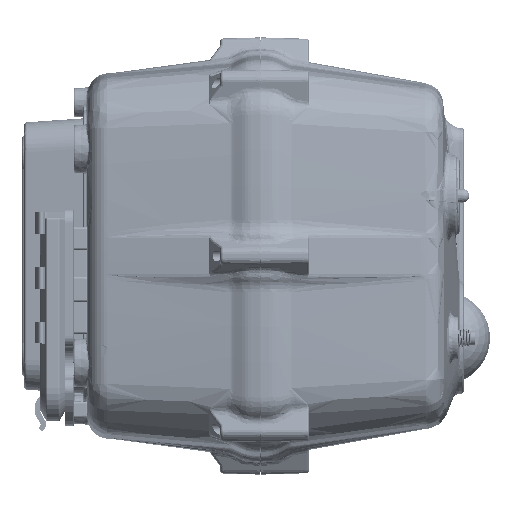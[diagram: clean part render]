
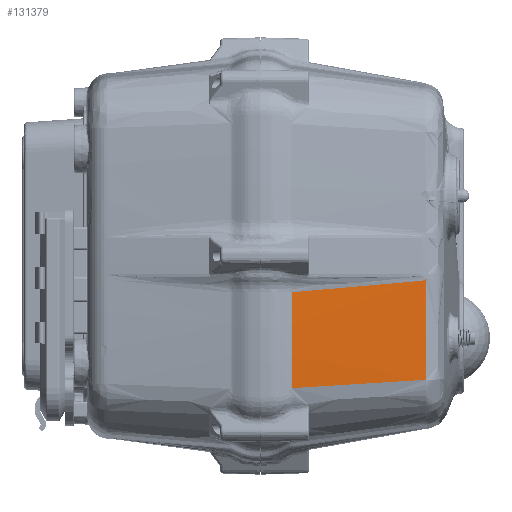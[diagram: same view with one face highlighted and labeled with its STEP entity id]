
A CAD part, left-side view. The second image highlights one B-rep face of the part: STEP entity #131379.
In plain terms, the highlighted conical face has half-angle 8 degrees and reference radius 743.562 mm.
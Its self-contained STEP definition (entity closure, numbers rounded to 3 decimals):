
#8016 = B_SPLINE_CURVE_WITH_KNOTS ( 'NONE', 3,
 ( #44613, #172469, #198170, #223903 ),
 .UNSPECIFIED., .F., .F.,
 ( 4, 4 ),
 ( 0., 0. ),
 .UNSPECIFIED. ) ;
#14527 = EDGE_CURVE ( 'NONE', #179311, #65300, #149429, .T. ) ;
#15612 = CARTESIAN_POINT ( 'NONE',  ( 94.949, 56.858, -9.387 ) ) ;
#15916 = CARTESIAN_POINT ( 'NONE',  ( -640.562, 0., 0. ) ) ;
#18270 = EDGE_CURVE ( 'NONE', #125146, #112965, #8016, .T. ) ;
#26849 = CARTESIAN_POINT ( 'NONE',  ( 99.819, 11.489, -48.177 ) ) ;
#39712 = CARTESIAN_POINT ( 'NONE',  ( 94.493, 60.184, -8.429 ) ) ;
#41291 = CARTESIAN_POINT ( 'NONE',  ( 95.357, 53.919, -9.815 ) ) ;
#41595 = DIRECTION ( 'NONE',  ( 0., 0., -1. ) ) ;
#44613 = CARTESIAN_POINT ( 'NONE',  ( 101.264, 11.513, -13.209 ) ) ;
#50865 = ORIENTED_EDGE ( 'NONE', *, *, #14527, .T. ) ;
#55846 = EDGE_LOOP ( 'NONE', ( #86271, #311121, #84028, #201624, #50865, #274755 ) ) ;
#58274 = CARTESIAN_POINT ( 'NONE',  ( 93.158, 60.172, -45.114 ) ) ;
#59373 = CARTESIAN_POINT ( 'NONE',  ( 93.25, 60.176, -43.587 ) ) ;
#65300 = VERTEX_POINT ( 'NONE', #39712 ) ;
#65989 = CARTESIAN_POINT ( 'NONE',  ( 94.814, 57.836, -9.229 ) ) ;
#67088 = CARTESIAN_POINT ( 'NONE',  ( 96.039, 49.009, -10.418 ) ) ;
#71793 = EDGE_CURVE ( 'NONE', #181487, #179311, #181741, .T. ) ;
#78427 = CARTESIAN_POINT ( 'NONE',  ( 97.178, 30.801, -46.961 ) ) ;
#79507 = AXIS2_PLACEMENT_3D ( 'NONE', #124518, #303755, #150272 ) ;
#84028 = ORIENTED_EDGE ( 'NONE', *, *, #157206, .T. ) ;
#85185 = CARTESIAN_POINT ( 'NONE',  ( 93.469, 60.178, -39.769 ) ) ;
#86271 = ORIENTED_EDGE ( 'NONE', *, *, #194937, .T. ) ;
#90641 = CARTESIAN_POINT ( 'NONE',  ( 94.679, 58.812, -9.051 ) ) ;
#92861 = CARTESIAN_POINT ( 'NONE',  ( 97.409, 39.161, -11.373 ) ) ;
#95886 = AXIS2_PLACEMENT_3D ( 'NONE', #15916, #271384, #41595 ) ;
#96182 = CONICAL_SURFACE ( 'NONE', #95886, 743.562, 0.14 ) ;
#99012 = B_SPLINE_CURVE_WITH_KNOTS ( 'NONE', 3,
 ( #90641, #65989, #15612, #194903, #41291, #220603, #67088, #246419, #92861, #272189, #118726, #297990, #144505, #323685 ),
 .UNSPECIFIED., .F., .F.,
 ( 4, 2, 2, 2, 2, 2, 4 ),
 ( 0., 0.003, 0.006, 0.012, 0.024, 0.036, 0.048 ),
 .UNSPECIFIED. ) ;
#104226 = CARTESIAN_POINT ( 'NONE',  ( 94.957, 47.028, -45.94 ) ) ;
#111000 = CARTESIAN_POINT ( 'NONE',  ( 93.812, 60.182, -32.894 ) ) ;
#112965 = VERTEX_POINT ( 'NONE', #195338 ) ;
#114209 = CARTESIAN_POINT ( 'NONE',  ( 94.548, 59.768, -8.724 ) ) ;
#118726 = CARTESIAN_POINT ( 'NONE',  ( 99.059, 27.318, -12.263 ) ) ;
#124518 = CARTESIAN_POINT ( 'NONE',  ( -640.562, 11.489, 0. ) ) ;
#125146 = VERTEX_POINT ( 'NONE', #189983 ) ;
#130006 = CARTESIAN_POINT ( 'NONE',  ( 93.158, 60.172, -45.114 ) ) ;
#131379 = ADVANCED_FACE ( 'NONE', ( #172433 ), #96182, .T. ) ;
#136766 = CARTESIAN_POINT ( 'NONE',  ( 94.276, 60.186, -20.664 ) ) ;
#137527 = CARTESIAN_POINT ( 'NONE',  ( 94.679, 58.812, -9.051 ) ) ;
#139984 = CARTESIAN_POINT ( 'NONE',  ( 94.644, 59.062, -9.005 ) ) ;
#144505 = CARTESIAN_POINT ( 'NONE',  ( 100.713, 15.466, -12.995 ) ) ;
#149429 = B_SPLINE_CURVE_WITH_KNOTS ( 'NONE', 3,
 ( #58274, #212912, #59373, #238716, #85185, #264489, #111000, #290307, #136766, #316042, #162559 ),
 .UNSPECIFIED., .F., .F.,
 ( 4, 2, 1, 2, 2, 4 ),
 ( 0., 0.002, 0.005, 0.009, 0.018, 0.037 ),
 .UNSPECIFIED. ) ;
#150272 = DIRECTION ( 'NONE',  ( 0., 0., -1. ) ) ;
#154298 = B_SPLINE_CURVE_WITH_KNOTS ( 'NONE', 3,
 ( #241919, #267682, #114209, #293480, #139984, #319204 ),
 .UNSPECIFIED., .F., .F.,
 ( 4, 2, 4 ),
 ( 0.002, 0.003, 0.003 ),
 .UNSPECIFIED. ) ;
#157206 = EDGE_CURVE ( 'NONE', #112965, #181487, #286544, .T. ) ;
#162559 = CARTESIAN_POINT ( 'NONE',  ( 94.493, 60.184, -8.429 ) ) ;
#163474 = CARTESIAN_POINT ( 'NONE',  ( 99.819, 11.489, -48.177 ) ) ;
#170608 = EDGE_CURVE ( 'NONE', #65300, #288350, #154298, .T. ) ;
#172433 = FACE_OUTER_BOUND ( 'NONE', #55846, .T. ) ;
#172469 = CARTESIAN_POINT ( 'NONE',  ( 101.265, 11.497, -13.296 ) ) ;
#179311 = VERTEX_POINT ( 'NONE', #182927 ) ;
#180431 = CARTESIAN_POINT ( 'NONE',  ( 98.499, 21.145, -47.569 ) ) ;
#181487 = VERTEX_POINT ( 'NONE', #163474 ) ;
#181741 = B_SPLINE_CURVE_WITH_KNOTS ( 'NONE', 3,
 ( #26849, #180431, #78427, #257780, #104226, #283540, #130006 ),
 .UNSPECIFIED., .F., .F.,
 ( 4, 3, 4 ),
 ( 0.001, 0.03, 0.05 ),
 .UNSPECIFIED. ) ;
#182927 = CARTESIAN_POINT ( 'NONE',  ( 93.158, 60.172, -45.114 ) ) ;
#189983 = CARTESIAN_POINT ( 'NONE',  ( 101.264, 11.513, -13.209 ) ) ;
#194903 = CARTESIAN_POINT ( 'NONE',  ( 95.221, 54.9, -9.68 ) ) ;
#194937 = EDGE_CURVE ( 'NONE', #288350, #125146, #99012, .T. ) ;
#195338 = CARTESIAN_POINT ( 'NONE',  ( 101.263, 11.489, -13.473 ) ) ;
#198170 = CARTESIAN_POINT ( 'NONE',  ( 101.265, 11.489, -13.384 ) ) ;
#201624 = ORIENTED_EDGE ( 'NONE', *, *, #71793, .T. ) ;
#212912 = CARTESIAN_POINT ( 'NONE',  ( 93.204, 60.178, -44.35 ) ) ;
#220603 = CARTESIAN_POINT ( 'NONE',  ( 95.765, 50.975, -10.195 ) ) ;
#223903 = CARTESIAN_POINT ( 'NONE',  ( 101.263, 11.489, -13.473 ) ) ;
#238716 = CARTESIAN_POINT ( 'NONE',  ( 93.339, 60.177, -42.06 ) ) ;
#241919 = CARTESIAN_POINT ( 'NONE',  ( 94.493, 60.184, -8.429 ) ) ;
#246419 = CARTESIAN_POINT ( 'NONE',  ( 96.86, 43.105, -11.032 ) ) ;
#257780 = CARTESIAN_POINT ( 'NONE',  ( 95.857, 40.457, -46.353 ) ) ;
#264489 = CARTESIAN_POINT ( 'NONE',  ( 93.588, 60.18, -37.477 ) ) ;
#267682 = CARTESIAN_POINT ( 'NONE',  ( 94.519, 59.988, -8.59 ) ) ;
#271384 = DIRECTION ( 'NONE',  ( 0., -1., 0. ) ) ;
#272189 = CARTESIAN_POINT ( 'NONE',  ( 98.509, 31.267, -11.99 ) ) ;
#274755 = ORIENTED_EDGE ( 'NONE', *, *, #170608, .T. ) ;
#283540 = CARTESIAN_POINT ( 'NONE',  ( 94.058, 53.6, -45.527 ) ) ;
#286544 = CIRCLE ( 'NONE', #79507, 741.948 ) ;
#288350 = VERTEX_POINT ( 'NONE', #137527 ) ;
#290307 = CARTESIAN_POINT ( 'NONE',  ( 93.942, 60.183, -29.837 ) ) ;
#293480 = CARTESIAN_POINT ( 'NONE',  ( 94.611, 59.307, -8.93 ) ) ;
#297990 = CARTESIAN_POINT ( 'NONE',  ( 100.161, 19.417, -12.766 ) ) ;
#303755 = DIRECTION ( 'NONE',  ( 0., 1., 0. ) ) ;
#311121 = ORIENTED_EDGE ( 'NONE', *, *, #18270, .T. ) ;
#316042 = CARTESIAN_POINT ( 'NONE',  ( 94.423, 60.186, -14.547 ) ) ;
#319204 = CARTESIAN_POINT ( 'NONE',  ( 94.679, 58.812, -9.051 ) ) ;
#323685 = CARTESIAN_POINT ( 'NONE',  ( 101.264, 11.513, -13.209 ) ) ;
